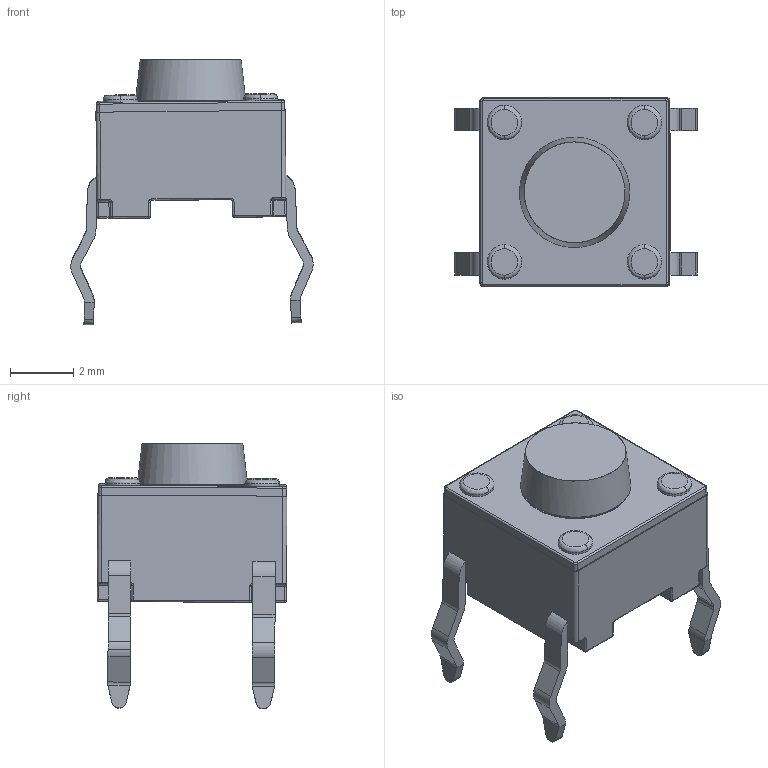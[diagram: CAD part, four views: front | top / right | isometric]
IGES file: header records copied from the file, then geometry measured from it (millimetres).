
Global section: file name: Filename.iges; native system: Open CASCADE 7.3; preprocessor: Open CASCADE IGES processor 7.3; date: 20210813.141113; units: millimetre
Bounding box: 7.69 x 6.03 x 8.44 mm (x, y, z)
Surface area: 232.4 mm2 (no closed solid volume)
Topology: 0 solids, 0 shells, 294 faces, 1410 edges, 1382 vertices
Faces by surface type: revolution 204, plane 90
